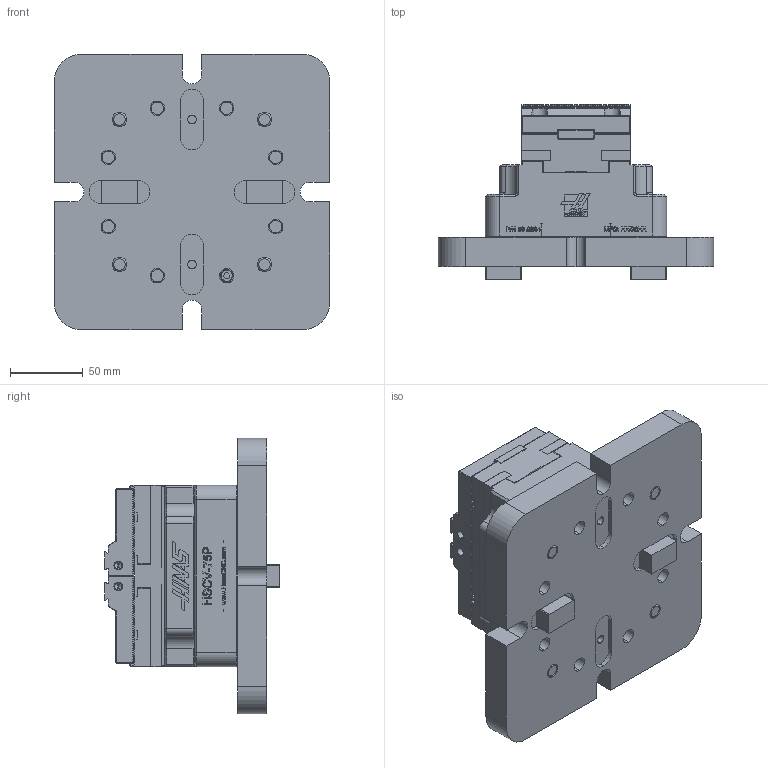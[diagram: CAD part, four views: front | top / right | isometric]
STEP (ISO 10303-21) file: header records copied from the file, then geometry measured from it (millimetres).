
FILE_DESCRIPTION (( 'STEP AP214' ), '1' );
FILE_NAME ('75mm AIR VISE_STEP__10_2022.step', '2022-10-13T17:16:49', ( '' ), ( '' ), 'SwSTEP 2.0', 'SolidWorks 2021', '' );
FILE_SCHEMA (( 'AUTOMOTIVE_DESIGN' ));
Length unit declared in the file: inch
Products named in the file (15): JAW A _75mm AIR VISE_10_2022; SLIDE B_75mm AIR VISE_10_2022; 59-2021A-SLIDE-B; JAW B_75mm AIR VISE_10_2022; ROTARY BASE_75mm AIR VISE_10_2022; 59-1883A-ROTARY BASE; 59-2021A-JAW-B; SLIDE A_75mm AIR VISE_10_2022; 75mm AIR VISE_STEP__10_2022; MAIN BODY_75mm AIR VISE_10_2022_ROTARY; BASE PLATE_75mm AIR VISE_10_2022; 59-2021A-SLIDE-A; 59-2021A-BASE PLATE; 59-2021A-BODY_ROTARY; 59-2021A-JAW
Assembly tree (14 placements, depth 3):
  75mm AIR VISE_STEP__10_2022
    BASE PLATE_75mm AIR VISE_10_2022
      59-2021A-BASE PLATE
    MAIN BODY_75mm AIR VISE_10_2022_ROTARY
      59-2021A-BODY_ROTARY
    SLIDE A_75mm AIR VISE_10_2022
      59-2021A-SLIDE-A
    SLIDE B_75mm AIR VISE_10_2022
      59-2021A-SLIDE-B
    JAW A _75mm AIR VISE_10_2022
      59-2021A-JAW
    JAW B_75mm AIR VISE_10_2022
      59-2021A-JAW-B
    ROTARY BASE_75mm AIR VISE_10_2022
      59-1883A-ROTARY BASE
Bounding box: 190 x 120.62 x 190 mm (x, y, z)
Volume: 1802145.5 mm3; surface area: 304126 mm2
Topology: 7 solids, 19 shells, 4419 faces, 12278 edges, 7999 vertices
Faces by surface type: plane 3238, cylinder 531, bspline 449, cone 161, torus 40
Entity records: 217271 total; most frequent: CARTESIAN_POINT 51062, ORIENTED_EDGE 24304, DIRECTION 19809, EDGE_CURVE 12152, VECTOR 9325, LINE 9325, VERTEX_POINT 7999, AXIS2_PLACEMENT_3D 5242
